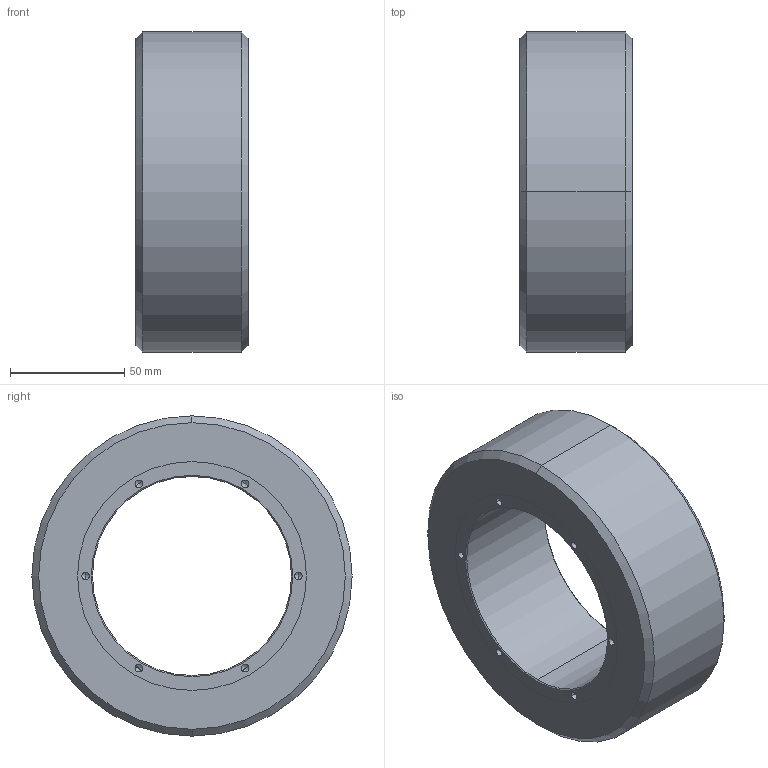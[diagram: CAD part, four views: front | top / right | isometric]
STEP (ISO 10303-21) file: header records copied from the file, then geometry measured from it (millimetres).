
FILE_DESCRIPTION (( 'STEP AP203' ), '1' );
FILE_NAME ('12037765180104.STEP', '2026-03-17T09:45:46', ( '20241006' ), ( '' ), 'SwSTEP 2.0', 'SolidWorks 2021', '' );
FILE_SCHEMA (( 'CONFIG_CONTROL_DESIGN' ));
Length unit declared in the file: millimetre
Products named in the file (1): 12037765180104
Bounding box: 49 x 140 x 140 mm (x, y, z)
Volume: 458181.7 mm3; surface area: 53125.8 mm2
Topology: 1 solids, 1 shells, 64 faces, 152 edges, 80 vertices
Faces by surface type: cone 32, cylinder 28, plane 4
Entity records: 1753 total; most frequent: DIRECTION 326, CARTESIAN_POINT 273, ORIENTED_EDGE 256, AXIS2_PLACEMENT_3D 133, EDGE_CURVE 128, VERTEX_POINT 80, EDGE_LOOP 80, CIRCLE 68
